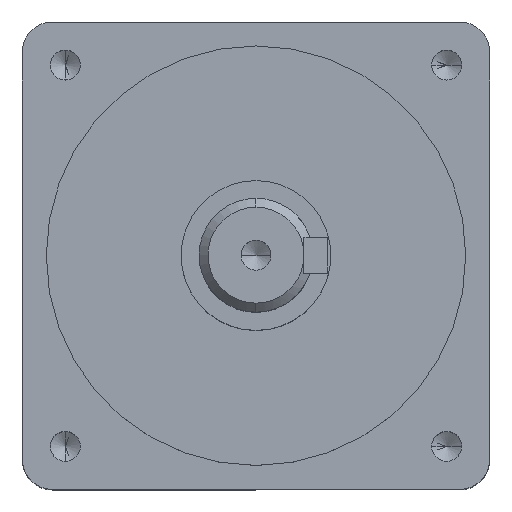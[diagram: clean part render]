
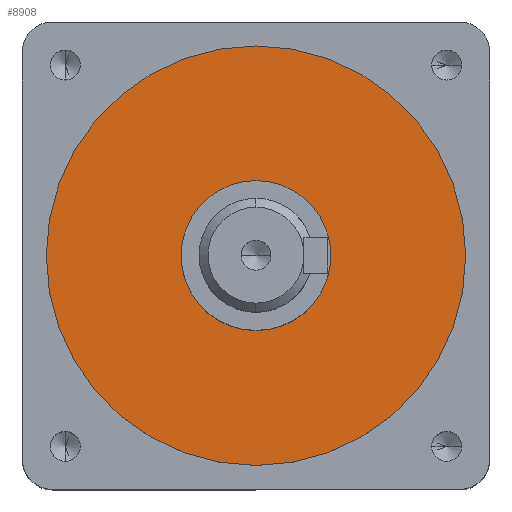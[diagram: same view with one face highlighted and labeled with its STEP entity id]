
A CAD part, top view. The second image highlights one B-rep face of the part: STEP entity #8908.
In plain terms, the highlighted planar face has unit normal (0, 0, 1).
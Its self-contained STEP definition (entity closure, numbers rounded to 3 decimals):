
#230 = VERTEX_POINT ( 'NONE', #18328 ) ;
#343 = EDGE_LOOP ( 'NONE', ( #4248, #21976 ) ) ;
#2195 = DIRECTION ( 'NONE',  ( 0., 0., -1. ) ) ;
#2659 = CIRCLE ( 'NONE', #3231, 12.5 ) ;
#3231 = AXIS2_PLACEMENT_3D ( 'NONE', #13663, #31343, #16206 ) ;
#3620 = CIRCLE ( 'NONE', #23025, 35. ) ;
#3737 = ORIENTED_EDGE ( 'NONE', *, *, #4783, .T. ) ;
#3915 = CARTESIAN_POINT ( 'NONE',  ( -35., 0., 3. ) ) ;
#4248 = ORIENTED_EDGE ( 'NONE', *, *, #4260, .F. ) ;
#4260 = EDGE_CURVE ( 'NONE', #19973, #230, #3620, .T. ) ;
#4295 = AXIS2_PLACEMENT_3D ( 'NONE', #5028, #22682, #7551 ) ;
#4783 = EDGE_CURVE ( 'NONE', #20089, #7940, #12223, .T. ) ;
#5028 = CARTESIAN_POINT ( 'NONE',  ( 0., 0., 3. ) ) ;
#6039 = FACE_OUTER_BOUND ( 'NONE', #343, .T. ) ;
#7551 = DIRECTION ( 'NONE',  ( 1., 0., 0. ) ) ;
#7940 = VERTEX_POINT ( 'NONE', #30263 ) ;
#8908 = ADVANCED_FACE ( 'NONE', ( #26194, #6039 ), #32709, .T. ) ;
#9656 = DIRECTION ( 'NONE',  ( 0., 0., -1. ) ) ;
#9679 = CARTESIAN_POINT ( 'NONE',  ( 0., 0., 3. ) ) ;
#10821 = CIRCLE ( 'NONE', #19953, 35. ) ;
#12218 = DIRECTION ( 'NONE',  ( -1., 0., 0. ) ) ;
#12223 = CIRCLE ( 'NONE', #24517, 12.5 ) ;
#13663 = CARTESIAN_POINT ( 'NONE',  ( 0., 0., 3. ) ) ;
#14063 = EDGE_CURVE ( 'NONE', #7940, #20089, #2659, .T. ) ;
#16206 = DIRECTION ( 'NONE',  ( -1., 0., 0. ) ) ;
#17330 = CARTESIAN_POINT ( 'NONE',  ( 0., 0., 3. ) ) ;
#18328 = CARTESIAN_POINT ( 'NONE',  ( 35., 0., 3. ) ) ;
#18995 = ORIENTED_EDGE ( 'NONE', *, *, #14063, .T. ) ;
#19550 = EDGE_LOOP ( 'NONE', ( #18995, #3737 ) ) ;
#19794 = CARTESIAN_POINT ( 'NONE',  ( 12.5, 0., 3. ) ) ;
#19861 = DIRECTION ( 'NONE',  ( -1., 0., 0. ) ) ;
#19953 = AXIS2_PLACEMENT_3D ( 'NONE', #17330, #2195, #19861 ) ;
#19973 = VERTEX_POINT ( 'NONE', #3915 ) ;
#20089 = VERTEX_POINT ( 'NONE', #19794 ) ;
#21976 = ORIENTED_EDGE ( 'NONE', *, *, #27408, .F. ) ;
#22682 = DIRECTION ( 'NONE',  ( 0., 0., 1. ) ) ;
#23025 = AXIS2_PLACEMENT_3D ( 'NONE', #9679, #27359, #12218 ) ;
#24517 = AXIS2_PLACEMENT_3D ( 'NONE', #24795, #9656, #27340 ) ;
#24795 = CARTESIAN_POINT ( 'NONE',  ( 0., 0., 3. ) ) ;
#26194 = FACE_BOUND ( 'NONE', #19550, .T. ) ;
#27340 = DIRECTION ( 'NONE',  ( -1., 0., 0. ) ) ;
#27359 = DIRECTION ( 'NONE',  ( 0., 0., -1. ) ) ;
#27408 = EDGE_CURVE ( 'NONE', #230, #19973, #10821, .T. ) ;
#30263 = CARTESIAN_POINT ( 'NONE',  ( -12.5, 0., 3. ) ) ;
#31343 = DIRECTION ( 'NONE',  ( 0., 0., -1. ) ) ;
#32709 = PLANE ( 'NONE',  #4295 ) ;
